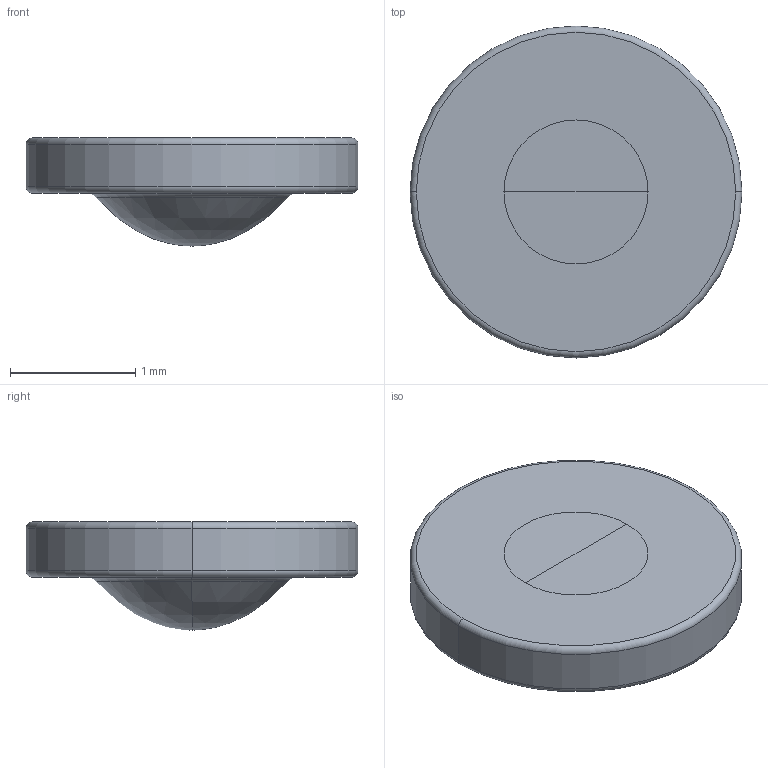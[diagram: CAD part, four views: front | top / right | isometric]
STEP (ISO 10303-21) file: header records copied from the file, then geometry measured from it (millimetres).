
FILE_DESCRIPTION((''),'2;1');
FILE_NAME('354710','2025-06-07T21:35:09',('admin'),('LIGHTPATH'),'CREO PARAMETRIC BY PTC INC, 2024063','CREO PARAMETRIC BY PTC INC, 2024063','');
FILE_SCHEMA(('CONFIG_CONTROL_DESIGN'));
Length unit declared in the file: millimetre
Products named in the file (1): 354710
Bounding box: 2.65 x 2.65 x 0.86 mm (x, y, z)
Volume: 2.9 mm3; surface area: 14.8 mm2
Topology: 1 solids, 1 shells, 14 faces, 30 edges, 16 vertices
Faces by surface type: torus 6, revolution 4, plane 2, cylinder 2
Entity records: 905 total; most frequent: CARTESIAN_POINT 569, DIRECTION 68, ORIENTED_EDGE 52, AXIS2_PLACEMENT_3D 30, EDGE_CURVE 26, CIRCLE 20, VERTEX_POINT 16, EDGE_LOOP 16
